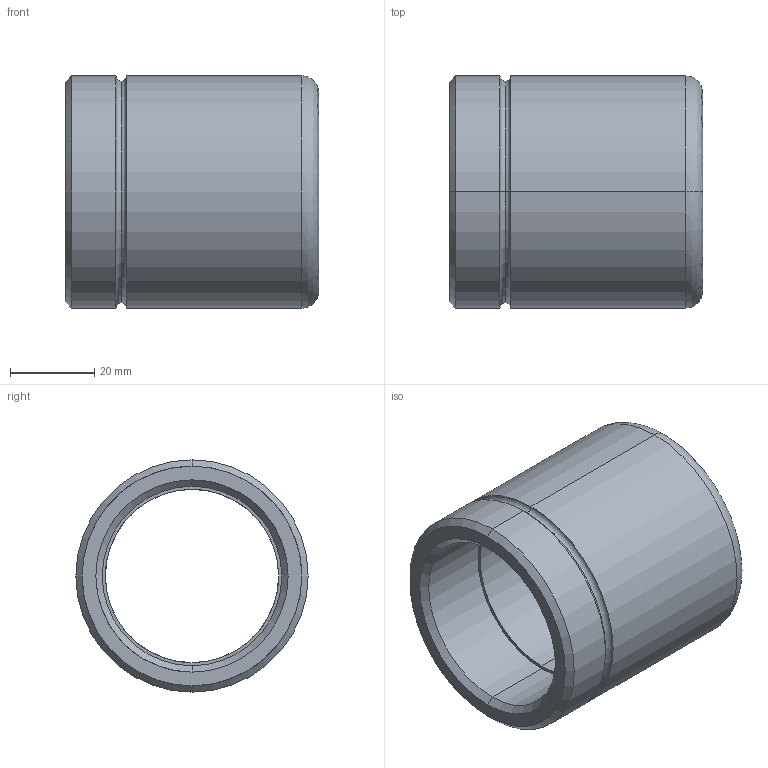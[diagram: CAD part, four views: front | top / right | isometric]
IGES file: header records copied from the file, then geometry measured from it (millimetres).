
Start section: START RECORD GO HERE.
Global section: file name: 347-41 x 60.igs; native system: DASSAULT SYSTEMES CATIA V5 R20 - www.3ds.com; preprocessor: CATIA Version 5 Release 20 ; author: Utente; organization: NB04-ASUS; date: 20210101.104437; units: millimetre
Bounding box: 60 x 55 x 55 mm (x, y, z)
Surface area: 20139.6 mm2 (no closed solid volume)
Topology: 0 solids, 0 shells, 29 faces, 172 edges, 172 vertices
Faces by surface type: revolution 26, plane 3
